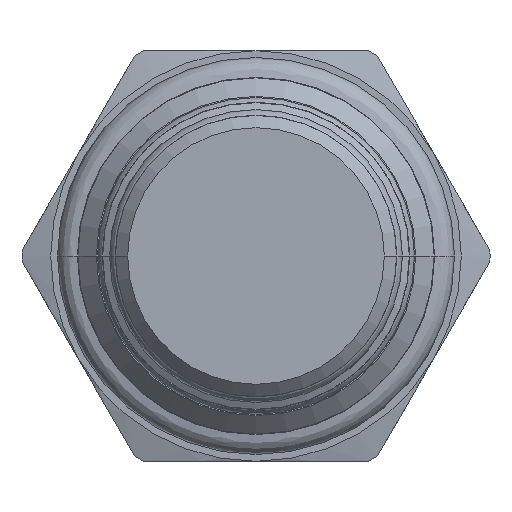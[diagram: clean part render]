
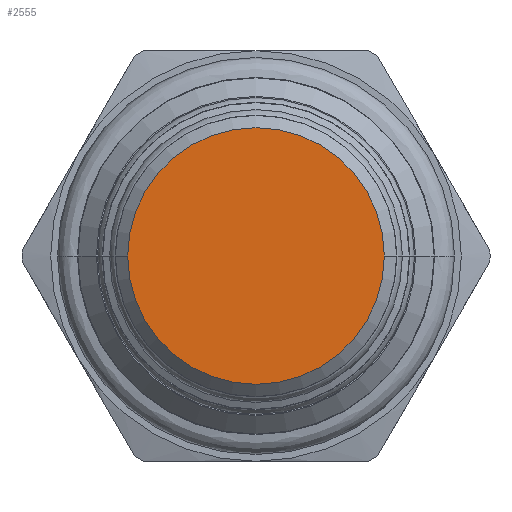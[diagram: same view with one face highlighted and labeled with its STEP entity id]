
A CAD part, front view. The second image highlights one B-rep face of the part: STEP entity #2555.
In plain terms, the highlighted planar face has unit normal (0, -1, 0).
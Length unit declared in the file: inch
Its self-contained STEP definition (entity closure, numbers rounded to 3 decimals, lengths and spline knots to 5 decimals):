
#946=CARTESIAN_POINT('',(0.,-1.856,0.));
#947=DIRECTION('',(0.,-1.,0.));
#948=DIRECTION('',(-1.,0.,0.));
#949=AXIS2_PLACEMENT_3D('',#946,#947,#948);
#964=CARTESIAN_POINT('',(0.,-1.856,0.));
#965=DIRECTION('',(0.,-1.,0.));
#966=DIRECTION('',(1.,0.,0.));
#967=AXIS2_PLACEMENT_3D('',#964,#965,#966);
#1117=CARTESIAN_POINT('',(0.3125,-1.856,0.));
#1118=CARTESIAN_POINT('',(-0.3125,-1.856,0.));
#1119=VERTEX_POINT('',#1117);
#1120=VERTEX_POINT('',#1118);
#2545=CARTESIAN_POINT('',(0.,-1.856,0.));
#2546=DIRECTION('',(0.,1.,0.));
#2547=DIRECTION('',(-1.,0.,0.));
#2548=AXIS2_PLACEMENT_3D('',#2545,#2546,#2547);
#2549=PLANE('',#2548);
#2551=ORIENTED_EDGE('',*,*,#2550,.F.);
#2552=ORIENTED_EDGE('',*,*,#2535,.F.);
#2553=EDGE_LOOP('',(#2551,#2552));
#2554=FACE_OUTER_BOUND('',#2553,.F.);
#2555=ADVANCED_FACE('',(#2554),#2549,.F.);
#950=CIRCLE('',#949,0.3125);
#968=CIRCLE('',#967,0.3125);
#2535=EDGE_CURVE('',#1120,#1119,#950,.T.);
#2550=EDGE_CURVE('',#1119,#1120,#968,.T.);
